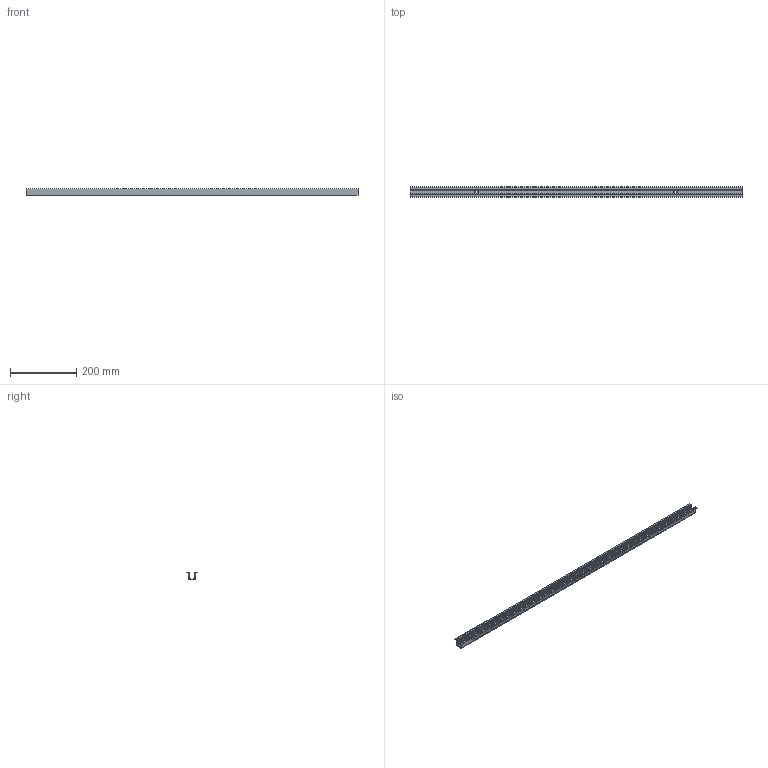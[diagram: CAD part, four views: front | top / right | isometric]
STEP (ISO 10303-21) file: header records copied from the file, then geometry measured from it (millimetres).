
FILE_DESCRIPTION(/* description */ (''),/* implementation_level */ '2;1');
FILE_NAME(/* name */ 'NF_1616_RECESSED_PROFILE_L1000_R02.step',/* time_stamp */ '2026-07-20T17:18:07+02:00',/* author */ (''),/* organization */ (''),/* preprocessor_version */ 'ST-DEVELOPER v20.1',/* originating_system */ 'Autodesk Translation Framework v15.8.0.0',/* authorisation */ '');
FILE_SCHEMA (('AUTOMOTIVE_DESIGN { 1 0 10303 214 3 1 1 }'));
Length unit declared in the file: millimetre
Products named in the file (1): 2026-07-19-14-41-14-256
Bounding box: 1000 x 31.98 x 20.8 mm (x, y, z)
Volume: 136645.7 mm3; surface area: 234881 mm2
Topology: 3 solids, 3 shells, 163 faces, 471 edges, 314 vertices
Faces by surface type: plane 74, bspline 63, cylinder 26
Entity records: 6485 total; most frequent: CARTESIAN_POINT 2484, ORIENTED_EDGE 942, DIRECTION 643, EDGE_CURVE 471, VERTEX_POINT 314, LINE 293, VECTOR 293, AXIS2_PLACEMENT_3D 175
